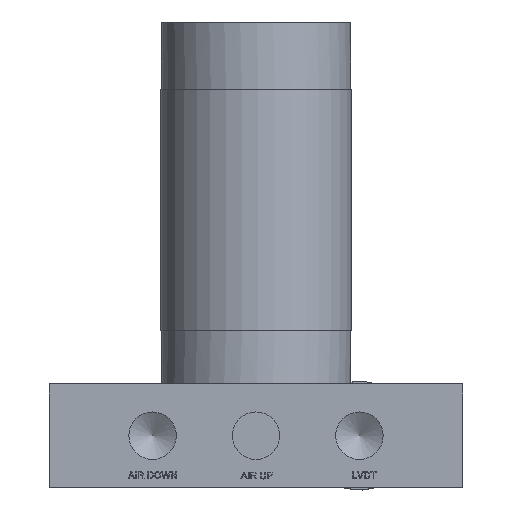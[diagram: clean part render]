
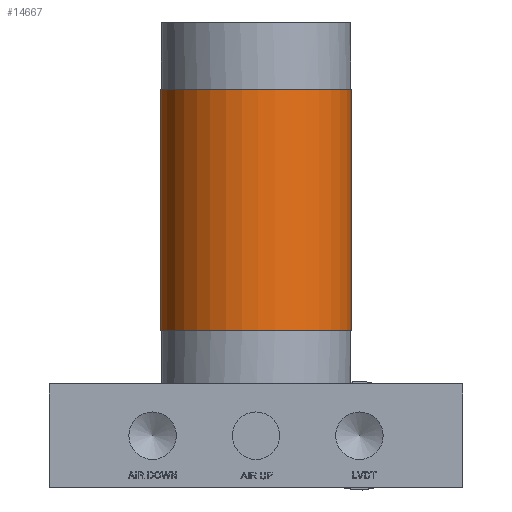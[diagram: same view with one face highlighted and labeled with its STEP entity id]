
A CAD part, front view. The second image highlights one B-rep face of the part: STEP entity #14667.
In plain terms, the highlighted cylindrical face has radius 17.59 mm (diameter 35.179 mm), a full revolution.
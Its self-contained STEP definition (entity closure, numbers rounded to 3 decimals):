
#3972=FACE_BOUND('',#5568,.T.);
#4655=FACE_OUTER_BOUND('',#5567,.T.);
#5567=EDGE_LOOP('',(#12468));
#5568=EDGE_LOOP('',(#12469));
#5865=CIRCLE('',#15375,17.59);
#5866=CIRCLE('',#15376,17.59);
#7104=VERTEX_POINT('',#24443);
#7105=VERTEX_POINT('',#24445);
#8937=EDGE_CURVE('',#7104,#7104,#5865,.T.);
#8938=EDGE_CURVE('',#7105,#7105,#5866,.T.);
#12468=ORIENTED_EDGE('',*,*,#8937,.T.);
#12469=ORIENTED_EDGE('',*,*,#8938,.F.);
#13185=CYLINDRICAL_SURFACE('',#15374,17.59);
#14667=ADVANCED_FACE('',(#4655,#3972),#13185,.T.);
#15374=AXIS2_PLACEMENT_3D('',#24442,#17992,#17993);
#15375=AXIS2_PLACEMENT_3D('',#24444,#17994,#17995);
#15376=AXIS2_PLACEMENT_3D('',#24446,#17996,#17997);
#17992=DIRECTION('center_axis',(0.,0.,
1.));
#17993=DIRECTION('ref_axis',(-1.,-0.026,0.));
#17994=DIRECTION('center_axis',(0.,0.,
-1.));
#17995=DIRECTION('ref_axis',(-1.,-0.026,0.));
#17996=DIRECTION('center_axis',(0.,0.,
-1.));
#17997=DIRECTION('ref_axis',(-1.,-0.026,0.));
#24442=CARTESIAN_POINT('Origin',(0.,0.,28.892));
#24443=CARTESIAN_POINT('',(17.583,0.46,73.342));
#24444=CARTESIAN_POINT('Origin',(0.,0.,
73.342));
#24445=CARTESIAN_POINT('',(17.583,0.46,28.892));
#24446=CARTESIAN_POINT('Origin',(0.,0.,28.892));
